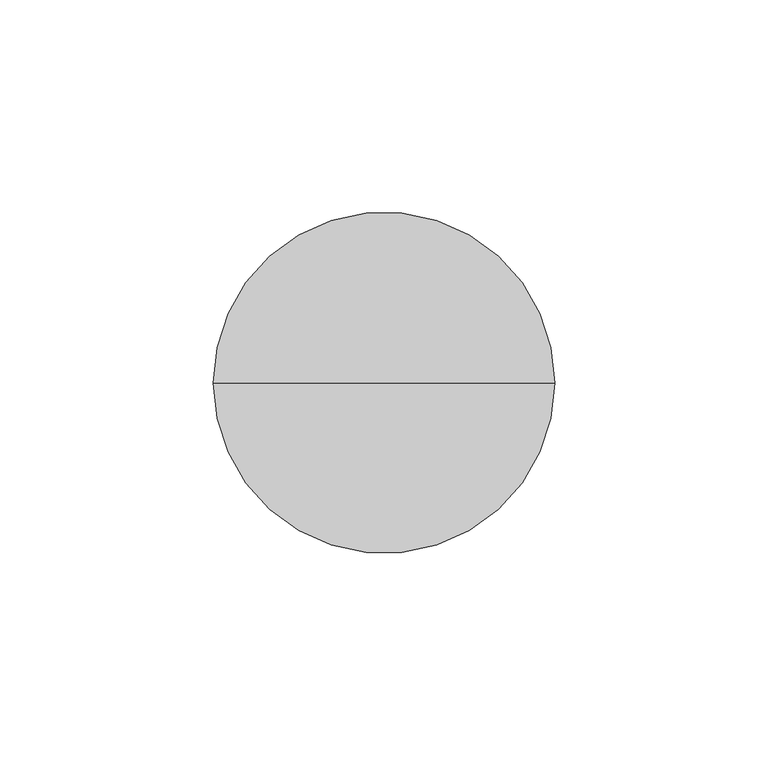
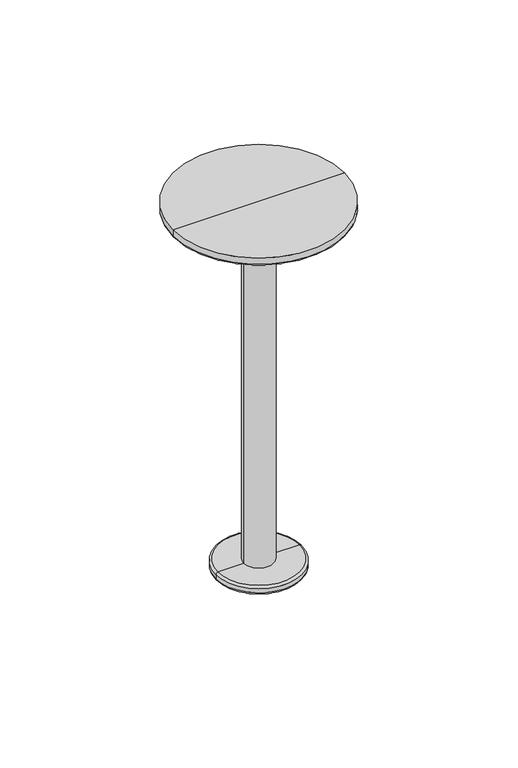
"""IFC4 building model written with IfcOpenShell, lengths in millimetres: furniture geometry, Hjelle - Gaia - Sofa - 3 Seater : Hjelle - Gaia - Sofa - 3 Seater."""

from ifc_helpers import new_model, si_unit, point, frame, origin, place, context, project, spatial, circle_curve, ellipse_curve, trimmed, source, transform, mapped, element, save
from ifc_brep_helpers import plane_surface, cylinder_surface, revolved_surface, advanced_brep


def furniture_41420ba9(model_context):
    return source(origin(), model_context, "Body", "AdvancedBrep", [
        advanced_brep(
        [(-861.0005135, -260.095992, 4.0), (-899.0005135, -260.095992, 4.0), (-887.0005135, -260.095992, 4.0), (-873.0005135, -260.095992, 4.0), (-860.0005135, -260.095992, 3.0), (-900.0005135, -260.095992, 3.0), (-860.0005135, -260.095992, 1.0), (-900.0005135, -260.095992, 1.0), (-861.0005135, -260.095992, 0.0), (-899.0005135, -260.095992, 0.0), (-880.0005135, -260.095992, 0.0), (-840.0005135, -260.095992, 180.0), (-920.0005135, -260.095992, 180.0), (-880.0005135, -260.095992, 180.0), (-840.0005135, -260.095992, 177.0), (-920.0005135, -260.095992, 177.0), (-841.0005135, -260.095992, 176.0), (-919.0005135, -260.095992, 176.0), (-873.0005135, -260.095992, 176.0), (-887.0005135, -260.095992, 176.0)],
        [
            (0, 1, circle_curve(frame((-880.0005135, -260.095992, 4.0), z_axis=(0.0, 0.0, 1.0), x_axis=(-1.0, 0.0, 0.0)), 19.0)),
            (1, 2),
            (2, 3, circle_curve(frame((-880.0005135, -260.095992, 4.0), z_axis=(0.0, 0.0, -1.0), x_axis=(-1.0, 0.0, 0.0)), 7.0)),
            (3, 0),
            (1, 0, circle_curve(frame((-880.0005135, -260.095992, 4.0), z_axis=(0.0, 0.0, 1.0), x_axis=(-1.0, 0.0, 0.0)), 19.0)),
            (3, 2, circle_curve(frame((-880.0005135, -260.095992, 4.0), z_axis=(0.0, 0.0, -1.0), x_axis=(-1.0, 0.0, 0.0)), 7.0)),
            (4, 5, circle_curve(frame((-880.0005135, -260.095992, 3.0), z_axis=(0.0, 0.0, 1.0), x_axis=(-1.0, 0.0, 0.0)), 20.0)),
            (5, 1, circle_curve(frame((-899.0005135, -260.095992, 3.0), z_axis=(0.0, 1.0, 0.0), x_axis=(1.0, 0.0, 0.0)), 1.0)),
            (0, 4, circle_curve(frame((-861.0005135, -260.095992, 3.0), z_axis=(0.0, 1.0, 0.0), x_axis=(-1.0, 0.0, 0.0)), 1.0)),
            (5, 4, circle_curve(frame((-880.0005135, -260.095992, 3.0), z_axis=(0.0, 0.0, 1.0), x_axis=(-1.0, 0.0, 0.0)), 20.0)),
            (6, 7, circle_curve(frame((-880.0005135, -260.095992, 1.0), z_axis=(0.0, 0.0, 1.0), x_axis=(-1.0, 0.0, 0.0)), 20.0)),
            (7, 5),
            (4, 6),
            (7, 6, circle_curve(frame((-880.0005135, -260.095992, 1.0), z_axis=(0.0, 0.0, 1.0), x_axis=(-1.0, 0.0, 0.0)), 20.0)),
            (8, 9, circle_curve(frame((-880.0005135, -260.095992, 0.0), z_axis=(0.0, 0.0, 1.0), x_axis=(-1.0, 0.0, 0.0)), 19.0)),
            (9, 7, circle_curve(frame((-899.0005135, -260.095992, 1.0), z_axis=(0.0, 1.0, 0.0), x_axis=(1.0, 0.0, 0.0)), 1.0)),
            (6, 8, circle_curve(frame((-861.0005135, -260.095992, 1.0), z_axis=(0.0, 1.0, 0.0), x_axis=(-1.0, 0.0, 0.0)), 1.0)),
            (9, 8, circle_curve(frame((-880.0005135, -260.095992, 0.0), z_axis=(0.0, 0.0, 1.0), x_axis=(-1.0, 0.0, 0.0)), 19.0)),
            (10, 9),
            (8, 10),
            (11, 12, circle_curve(frame((-880.0005135, -260.095992, 180.0), z_axis=(0.0, 0.0, 1.0), x_axis=(-1.0, 0.0, 0.0)), 40.0)),
            (12, 13),
            (13, 11),
            (12, 11, circle_curve(frame((-880.0005135, -260.095992, 180.0), z_axis=(0.0, 0.0, 1.0), x_axis=(-1.0, 0.0, 0.0)), 40.0)),
            (14, 15, circle_curve(frame((-880.0005135, -260.095992, 177.0), z_axis=(0.0, 0.0, 1.0), x_axis=(-1.0, 0.0, 0.0)), 40.0)),
            (15, 12),
            (11, 14),
            (15, 14, circle_curve(frame((-880.0005135, -260.095992, 177.0), z_axis=(0.0, 0.0, 1.0), x_axis=(-1.0, 0.0, 0.0)), 40.0)),
            (16, 17, circle_curve(frame((-880.0005135, -260.095992, 176.0), z_axis=(0.0, 0.0, 1.0), x_axis=(-1.0, 0.0, 0.0)), 39.0)),
            (17, 15, circle_curve(frame((-919.0005135, -260.095992, 177.0), z_axis=(0.0, 1.0, 0.0), x_axis=(1.0, 0.0, 0.0)), 1.0)),
            (14, 16, circle_curve(frame((-841.0005135, -260.095992, 177.0), z_axis=(0.0, 1.0, 0.0), x_axis=(-1.0, 0.0, 0.0)), 1.0)),
            (17, 16, circle_curve(frame((-880.0005135, -260.095992, 176.0), z_axis=(0.0, 0.0, 1.0), x_axis=(-1.0, 0.0, 0.0)), 39.0)),
            (18, 19, circle_curve(frame((-880.0005135, -260.095992, 176.0), z_axis=(0.0, 0.0, 1.0), x_axis=(-1.0, 0.0, 0.0)), 7.0)),
            (19, 17),
            (16, 18),
            (19, 18, circle_curve(frame((-880.0005135, -260.095992, 176.0), z_axis=(0.0, 0.0, 1.0), x_axis=(-1.0, 0.0, 0.0)), 7.0)),
            (2, 19),
            (18, 3),
        ],
        [
            plane_surface(frame((-880.0005135, -260.095992, 4.0), z_axis=(0.0, 0.0, 1.0), x_axis=(-1.0, 0.0, 0.0))),
            revolved_surface(trimmed(ellipse_curve(frame((-899.0005135, -260.095992, 3.0), z_axis=(0.0, -1.0, 0.0), x_axis=(1.0, 0.0, 0.0)), 1.0, 1.0), [point((-899.0005135, -260.095992, 4.0))], [point((-900.0005135, -260.095992, 3.0))], True, "CARTESIAN"), (-880.0005135, -260.095992, -14.0), (0.0, 0.0, -1.0)),
            cylinder_surface(frame((-880.0005135, -260.095992, -14.0), z_axis=(0.0, 0.0, -1.0), x_axis=(-1.0, 0.0, 0.0)), 20.0),
            revolved_surface(trimmed(ellipse_curve(frame((-899.0005135, -260.095992, 1.0), z_axis=(0.0, -1.0, 0.0), x_axis=(1.0, 0.0, 0.0)), 1.0, 1.0), [point((-900.0005135, -260.095992, 1.0))], [point((-899.0005135, -260.095992, 0.0))], True, "CARTESIAN"), (-880.0005135, -260.095992, -14.0), (0.0, 0.0, -1.0)),
            plane_surface(frame((-880.0005135, -260.095992, 0.0), z_axis=(0.0, 0.0, -1.0), x_axis=(-1.0, 0.0, 0.0))),
            plane_surface(frame((-880.0005135, -260.095992, 180.0), z_axis=(0.0, 0.0, 1.0), x_axis=(-1.0, 0.0, 0.0))),
            cylinder_surface(frame((-880.0005135, -260.095992, -14.0), z_axis=(0.0, 0.0, -1.0), x_axis=(-1.0, 0.0, 0.0)), 40.0),
            revolved_surface(trimmed(ellipse_curve(frame((-919.0005135, -260.095992, 177.0), z_axis=(0.0, -1.0, 0.0), x_axis=(1.0, 0.0, 0.0)), 1.0, 1.0), [point((-920.0005135, -260.095992, 177.0))], [point((-919.0005135, -260.095992, 176.0))], True, "CARTESIAN"), (-880.0005135, -260.095992, -14.0), (0.0, 0.0, -1.0)),
            plane_surface(frame((-880.0005135, -260.095992, 176.0), z_axis=(0.0, 0.0, -1.0), x_axis=(-1.0, 0.0, 0.0))),
            cylinder_surface(frame((-880.0005135, -260.095992, -14.0), z_axis=(0.0, 0.0, -1.0), x_axis=(-1.0, 0.0, 0.0)), 7.0),
        ],
        [
            (0, [[1, 2, 3, 4]]),
            (0, [[5, -4, 6, -2]]),
            (1, [[7, 8, -1, 9]]),
            (1, [[10, -9, -5, -8]]),
            (2, [[11, 12, -7, 13]]),
            (2, [[14, -13, -10, -12]]),
            (3, [[15, 16, -11, 17]]),
            (3, [[18, -17, -14, -16]]),
            (4, [[19, -15, 20]]),
            (4, [[-20, -18, -19]]),
            (5, [[21, 22, 23]]),
            (5, [[24, -23, -22]]),
            (6, [[25, 26, -21, 27]]),
            (6, [[28, -27, -24, -26]]),
            (7, [[29, 30, -25, 31]]),
            (7, [[32, -31, -28, -30]]),
            (8, [[33, 34, -29, 35]]),
            (8, [[36, -35, -32, -34]]),
            (9, [[-3, 37, -33, 38]]),
            (9, [[-6, -38, -36, -37]]),
        ],
    ),
    ])


if __name__ == "__main__":
    model = new_model("IFC4")
    model_context = context("Model", 3, world=origin())
    ifc_project = project(units=[si_unit("LENGTHUNIT", "METRE", prefix="MILLI")], contexts=[model_context])
    site = spatial("IfcSite", under=ifc_project)
    building = spatial("IfcBuilding", under=site)
    placement = place(None, origin())
    furniture_shape = furniture_41420ba9(model_context)
    element("IfcFurniture", 1, ObjectType="Hjelle - Gaia - Sofa - 3 Seater : Hjelle - Gaia - Sofa - 3 Seater", at=placement, inside=building, context=model_context, shape_type="MappedRepresentation", body=[
        mapped(furniture_shape, transform((0.0, 0.0, 0.0), x_axis=(1.0, 0.0, 0.0), y_axis=(0.0, 1.0, 0.0), z_axis=(0.0, 0.0, 1.0))),
    ])
    save(model, "model.ifc")
